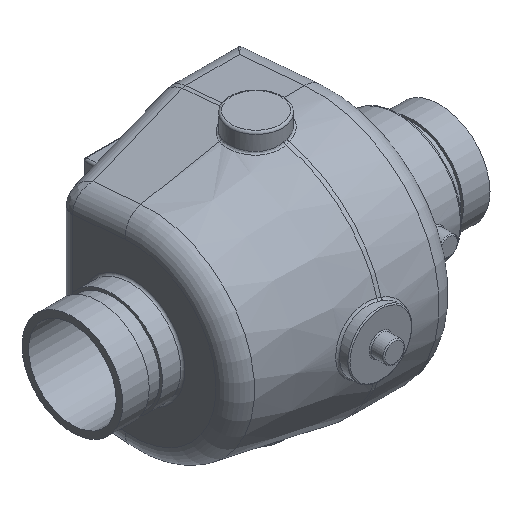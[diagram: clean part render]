
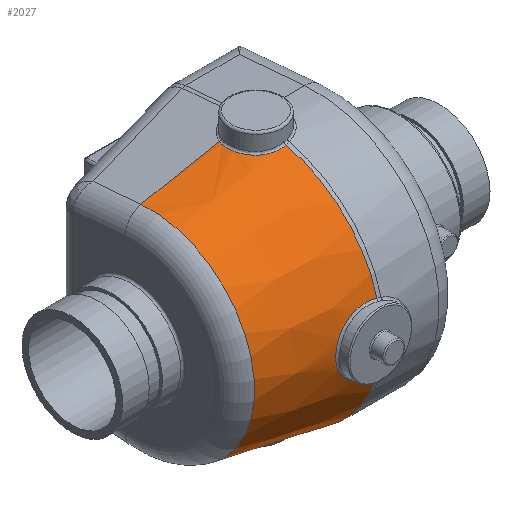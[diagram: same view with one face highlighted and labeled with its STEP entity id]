
A CAD part, isometric view. The second image highlights one B-rep face of the part: STEP entity #2027.
In plain terms, the highlighted conical face has half-angle 10 degrees and reference radius 74.196 mm.
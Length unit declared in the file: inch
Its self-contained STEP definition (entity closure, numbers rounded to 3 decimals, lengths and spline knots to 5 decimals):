
#51=CONICAL_SURFACE('',#2239,2.92112,0.175);
#94=B_SPLINE_CURVE_WITH_KNOTS('',3,(#3548,#3549,#3550,#3551,#3552,#3553,
#3554,#3555),.UNSPECIFIED.,.F.,.F.,(4,1,1,1,1,4),(-3.43749,-2.94642,
-2.45535,-1.47321,-0.49107,0.),
 .UNSPECIFIED.);
#103=B_SPLINE_CURVE_WITH_KNOTS('',3,(#3762,#3763,#3764,#3765,#3766,#3767,
#3768,#3769,#3770,#3771),.UNSPECIFIED.,.F.,.F.,(4,1,1,1,1,1,1,4),(-7.00082,
-6.0007,-5.00058,-4.00047,-3.00035,-2.00023,
-1.00012,0.),.UNSPECIFIED.);
#104=B_SPLINE_CURVE_WITH_KNOTS('',3,(#3775,#3776,#3777,#3778,#3779,#3780,
#3781,#3782),.UNSPECIFIED.,.F.,.F.,(4,1,1,1,1,4),(-3.43749,-2.45535,
-1.47321,-0.98214,-0.49107,0.),
 .UNSPECIFIED.);
#211=LINE('',#3754,#287);
#214=LINE('',#3784,#290);
#287=VECTOR('',#2662,0.3937);
#290=VECTOR('',#2671,0.3937);
#417=FACE_OUTER_BOUND('',#543,.T.);
#543=EDGE_LOOP('',(#1463,#1464,#1465,#1466,#1467,#1468,#1469,#1470));
#699=CIRCLE('',#2240,2.91352);
#700=CIRCLE('',#2241,2.91352);
#701=CIRCLE('',#2242,2.46499);
#861=VERTEX_POINT('',#3545);
#862=VERTEX_POINT('',#3547);
#874=VERTEX_POINT('',#3753);
#876=VERTEX_POINT('',#3759);
#877=VERTEX_POINT('',#3761);
#878=VERTEX_POINT('',#3772);
#879=VERTEX_POINT('',#3774);
#880=VERTEX_POINT('',#3783);
#1067=EDGE_CURVE('',#861,#862,#94,.T.);
#1088=EDGE_CURVE('',#862,#874,#211,.T.);
#1091=EDGE_CURVE('',#876,#861,#699,.T.);
#1092=EDGE_CURVE('',#877,#876,#103,.T.);
#1093=EDGE_CURVE('',#878,#877,#700,.T.);
#1094=EDGE_CURVE('',#879,#878,#104,.T.);
#1095=EDGE_CURVE('',#879,#880,#214,.T.);
#1096=EDGE_CURVE('',#874,#880,#701,.T.);
#1463=ORIENTED_EDGE('',*,*,#1067,.F.);
#1464=ORIENTED_EDGE('',*,*,#1091,.F.);
#1465=ORIENTED_EDGE('',*,*,#1092,.F.);
#1466=ORIENTED_EDGE('',*,*,#1093,.F.);
#1467=ORIENTED_EDGE('',*,*,#1094,.F.);
#1468=ORIENTED_EDGE('',*,*,#1095,.T.);
#1469=ORIENTED_EDGE('',*,*,#1096,.F.);
#1470=ORIENTED_EDGE('',*,*,#1088,.F.);
#2027=ADVANCED_FACE('',(#417),#51,.T.);
#2239=AXIS2_PLACEMENT_3D('',#3758,#2665,#2666);
#2240=AXIS2_PLACEMENT_3D('',#3760,#2667,#2668);
#2241=AXIS2_PLACEMENT_3D('',#3773,#2669,#2670);
#2242=AXIS2_PLACEMENT_3D('',#3785,#2672,#2673);
#2662=DIRECTION('',(-0.985,-0.015,0.173));
#2665=DIRECTION('center_axis',(1.,0.,0.));
#2666=DIRECTION('ref_axis',(0.,-1.,0.));
#2667=DIRECTION('center_axis',(1.,0.,0.));
#2668=DIRECTION('ref_axis',(0.,-1.,0.));
#2669=DIRECTION('center_axis',(1.,0.,0.));
#2670=DIRECTION('ref_axis',(0.,-1.,0.));
#2671=DIRECTION('',(-0.985,-0.015,-0.173));
#2672=DIRECTION('center_axis',(-1.,0.,0.));
#2673=DIRECTION('ref_axis',(0.,-1.,0.));
#3545=CARTESIAN_POINT('',(4.37442,-0.66285,-2.83712));
#3547=CARTESIAN_POINT('',(3.7109,0.24373,-2.78588));
#3548=CARTESIAN_POINT('Ctrl Pts',(4.37442,-0.66285,-2.83712));
#3549=CARTESIAN_POINT('Ctrl Pts',(4.31123,-0.6661,-2.82491));
#3550=CARTESIAN_POINT('Ctrl Pts',(4.18319,-0.65494,-2.80441));
#3551=CARTESIAN_POINT('Ctrl Pts',(3.94097,-0.56245,-2.78164));
#3552=CARTESIAN_POINT('Ctrl Pts',(3.70705,-0.32541,-2.78427));
#3553=CARTESIAN_POINT('Ctrl Pts',(3.64173,-0.00189,
-2.78992));
#3554=CARTESIAN_POINT('Ctrl Pts',(3.68722,0.18483,-2.78684));
#3555=CARTESIAN_POINT('Ctrl Pts',(3.7109,0.24373,-2.78588));
#3753=CARTESIAN_POINT('',(1.83068,0.21484,-2.45561));
#3754=CARTESIAN_POINT('',(4.4175,0.25459,-2.91));
#3758=CARTESIAN_POINT('Origin',(4.4175,0.,0.));
#3759=CARTESIAN_POINT('',(4.37442,-2.80761,-0.77843));
#3760=CARTESIAN_POINT('Origin',(4.37442,0.,0.));
#3761=CARTESIAN_POINT('',(4.37442,-2.80761,0.77843));
#3762=CARTESIAN_POINT('Ctrl Pts',(4.37442,-2.80761,0.77843));
#3763=CARTESIAN_POINT('Ctrl Pts',(4.24762,-2.77938,0.79656));
#3764=CARTESIAN_POINT('Ctrl Pts',(3.98075,-2.7378,0.77195));
#3765=CARTESIAN_POINT('Ctrl Pts',(3.64237,-2.73456,0.55058));
#3766=CARTESIAN_POINT('Ctrl Pts',(3.45069,-2.75281,0.19943));
#3767=CARTESIAN_POINT('Ctrl Pts',(3.45091,-2.75269,-0.19938));
#3768=CARTESIAN_POINT('Ctrl Pts',(3.64213,-2.73452,-0.5507));
#3769=CARTESIAN_POINT('Ctrl Pts',(3.98093,-2.7379,-0.77184));
#3770=CARTESIAN_POINT('Ctrl Pts',(4.24762,-2.77938,-0.79656));
#3771=CARTESIAN_POINT('Ctrl Pts',(4.37442,-2.80761,-0.77843));
#3772=CARTESIAN_POINT('',(4.37442,-0.66285,2.83712));
#3773=CARTESIAN_POINT('Origin',(4.37442,0.,0.));
#3774=CARTESIAN_POINT('',(3.7109,0.24373,2.78588));
#3775=CARTESIAN_POINT('Ctrl Pts',(3.7109,0.24373,2.78588));
#3776=CARTESIAN_POINT('Ctrl Pts',(3.66355,0.12594,2.78781));
#3777=CARTESIAN_POINT('Ctrl Pts',(3.63945,-0.13694,2.78966));
#3778=CARTESIAN_POINT('Ctrl Pts',(3.79536,-0.42892,2.781));
#3779=CARTESIAN_POINT('Ctrl Pts',(4.00174,-0.58539,2.7874));
#3780=CARTESIAN_POINT('Ctrl Pts',(4.18305,-0.65508,2.80436));
#3781=CARTESIAN_POINT('Ctrl Pts',(4.31123,-0.6661,2.82491));
#3782=CARTESIAN_POINT('Ctrl Pts',(4.37442,-0.66285,2.83712));
#3783=CARTESIAN_POINT('',(1.83068,0.21484,2.45561));
#3784=CARTESIAN_POINT('',(4.4175,0.25459,2.91));
#3785=CARTESIAN_POINT('Origin',(1.83068,0.,0.));
